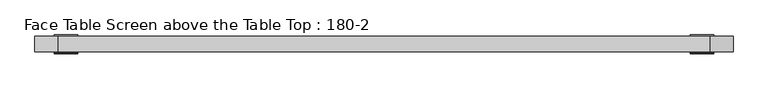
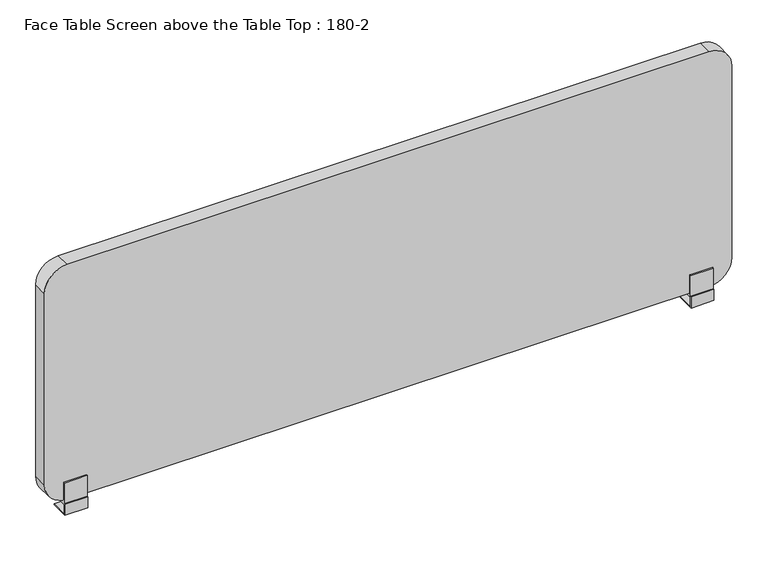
"""IFC4 building model written with IfcOpenShell, lengths in millimetres: furniture geometry, Face Table Screen above the Table Top : 180-2."""

from ifc_helpers import new_model, si_unit, point, frame, frame_2d, origin, place, context, project, spatial, polyline, circle_curve, trimmed, segment, composite_curve, outline, extrude, source, transform, mapped, element, save
from ifc_brep_helpers import plane_surface, cylinder_surface, advanced_brep


def face_table_screen_above_the_table_top_180_2_dd3ff419(model_context):
    return source(origin(), model_context, "Body", "SolidModel", [
        advanced_brep(
        [(-825.0, 0.0, -39.4406633), (-815.0, 0.0, -39.4406633), (-815.0, 0.0, -28.0), (-825.0, 0.0, -28.0), (-850.0, 23.0, -25.0), (-850.0, -23.0, -25.0), (-790.0, -23.0, -25.0), (-790.0, 23.0, -25.0), (-850.0, -23.0, 0.0), (-850.0, 23.0, -28.0), (-850.0, -26.0, -28.0), (-850.0, -26.0, 3.0), (-850.0, -23.0, 3.0), (-850.0, -23.0, 60.0), (-850.0, -20.0, 60.0), (-850.0, -20.0, 10.0), (-850.0, 20.0, 10.0), (-850.0, 20.0, 60.0), (-850.0, 23.0, 60.0), (-850.0, 23.0, 0.0), (-790.0, -23.0, 0.0), (-790.0, 23.0, 0.0), (-790.0, 23.0, 60.0), (-790.0, 20.0, 60.0), (-790.0, 20.0, 10.0), (-790.0, -20.0, 10.0), (-790.0, -20.0, 60.0), (-790.0, -23.0, 60.0), (-790.0, -23.0, 3.0), (-790.0, -26.0, 3.0), (-790.0, -26.0, -28.0), (-790.0, 23.0, -28.0)],
        [
            (0, 1, circle_curve(frame((-820.0, 0.0, -39.4406633), z_axis=(0.0, 0.0, -1.0), x_axis=(1.0, 0.0, 0.0)), 5.0)),
            (1, 0, circle_curve(frame((-820.0, 0.0, -39.4406633), z_axis=(0.0, 0.0, -1.0), x_axis=(1.0, 0.0, 0.0)), 5.0)),
            (1, 2),
            (2, 3, circle_curve(frame((-820.0, 0.0, -28.0), z_axis=(0.0, 0.0, -1.0), x_axis=(1.0, 0.0, 0.0)), 5.0)),
            (3, 0),
            (3, 2, circle_curve(frame((-820.0, 0.0, -28.0), z_axis=(0.0, 0.0, -1.0), x_axis=(1.0, 0.0, 0.0)), 5.0)),
            (4, 5),
            (5, 6),
            (6, 7),
            (7, 4),
            (8, 5),
            (4, 9),
            (9, 10),
            (10, 11),
            (11, 12),
            (12, 13),
            (13, 14),
            (14, 15),
            (15, 16),
            (16, 17),
            (17, 18),
            (18, 19),
            (19, 8),
            (20, 21),
            (21, 22),
            (22, 23),
            (23, 24),
            (24, 25),
            (25, 26),
            (26, 27),
            (27, 28),
            (28, 29),
            (29, 30),
            (30, 31),
            (31, 7),
            (6, 20),
            (19, 21),
            (20, 8),
            (18, 22),
            (17, 23),
            (16, 24),
            (15, 25),
            (14, 26),
            (13, 27),
            (12, 28),
            (11, 29),
            (10, 30),
            (9, 31),
        ],
        [
            plane_surface(frame((-815.0, 0.0, -39.4406633), z_axis=(0.0, 0.0, -1.0), x_axis=(0.0, -1.0, 0.0))),
            cylinder_surface(frame((-820.0, 0.0, -39.4406633), z_axis=(0.0, 0.0, 1.0), x_axis=(1.0, 0.0, 0.0)), 5.0),
            plane_surface(frame((-815.0, 0.0, -25.0), z_axis=(0.0, 0.0, 1.0), x_axis=(0.0, 1.0, 0.0))),
            plane_surface(frame((-850.0, 23.0, 0.0), z_axis=(-1.0, 0.0, 0.0), x_axis=(0.0, -1.0, 0.0))),
            plane_surface(frame((-790.0, 23.0, 0.0), z_axis=(1.0, 0.0, 0.0), x_axis=(0.0, 1.0, 0.0))),
            plane_surface(frame((-790.0, -23.0, 0.0), z_axis=(0.0, 0.0, -1.0), x_axis=(-1.0, 0.0, 0.0))),
            plane_surface(frame((-790.0, 23.0, 0.0), z_axis=(0.0, 1.0, 0.0), x_axis=(-1.0, 0.0, 0.0))),
            plane_surface(frame((-790.0, 23.0, 60.0), z_axis=(0.0, 0.0, 1.0), x_axis=(-1.0, 0.0, 0.0))),
            plane_surface(frame((-790.0, 20.0, 60.0), z_axis=(0.0, -1.0, 0.0), x_axis=(-1.0, 0.0, 0.0))),
            plane_surface(frame((-790.0, 20.0, 10.0), z_axis=(0.0, 0.0, 1.0), x_axis=(-1.0, 0.0, 0.0))),
            plane_surface(frame((-790.0, -20.0, 10.0), z_axis=(0.0, 1.0, 0.0), x_axis=(-1.0, 0.0, 0.0))),
            plane_surface(frame((-790.0, -20.0, 60.0), z_axis=(0.0, 0.0, 1.0), x_axis=(-1.0, 0.0, 0.0))),
            plane_surface(frame((-790.0, -23.0, 60.0), z_axis=(0.0, -1.0, 0.0), x_axis=(-1.0, 0.0, 0.0))),
            plane_surface(frame((-790.0, -23.0, 3.0), z_axis=(0.0, 0.0, 1.0), x_axis=(-1.0, 0.0, 0.0))),
            plane_surface(frame((-790.0, -26.0, 3.0), z_axis=(0.0, -1.0, 0.0), x_axis=(-1.0, 0.0, 0.0))),
            plane_surface(frame((-790.0, -26.0, -28.0), z_axis=(0.0, 0.0, -1.0), x_axis=(-1.0, 0.0, 0.0))),
            plane_surface(frame((-790.0, 23.0, -28.0), z_axis=(0.0, 1.0, 0.0), x_axis=(-1.0, 0.0, 0.0))),
            plane_surface(frame((-790.0, -23.0, -25.0), z_axis=(0.0, 1.0, 0.0), x_axis=(-1.0, 0.0, 0.0))),
        ],
        [
            (0, [[1, 2]]),
            (1, [[-2, 3, 4, 5]]),
            (1, [[-1, -5, 6, -3]]),
            (2, [[7, 8, 9, 10]]),
            (3, [[11, -7, 12, 13, 14, 15, 16, 17, 18, 19, 20, 21, 22, 23]]),
            (4, [[24, 25, 26, 27, 28, 29, 30, 31, 32, 33, 34, 35, -9, 36]]),
            (5, [[-23, 37, -24, 38]]),
            (6, [[-22, 39, -25, -37]]),
            (7, [[-21, 40, -26, -39]]),
            (8, [[-20, 41, -27, -40]]),
            (9, [[-19, 42, -28, -41]]),
            (10, [[-18, 43, -29, -42]]),
            (11, [[-17, 44, -30, -43]]),
            (12, [[-16, 45, -31, -44]]),
            (13, [[-15, 46, -32, -45]]),
            (14, [[-14, 47, -33, -46]]),
            (15, [[-13, 48, -34, -47], [-4, -6]]),
            (16, [[-12, -10, -35, -48]]),
            (17, [[-11, -38, -36, -8]]),
        ],
    ),
        advanced_brep(
        [(815.0, 0.0, -39.4406633), (825.0, 0.0, -39.4406633), (825.0, 0.0, -28.0), (815.0, 0.0, -28.0), (790.0, 23.0, -25.0), (790.0, -23.0, -25.0), (850.0, -23.0, -25.0), (850.0, 23.0, -25.0), (790.0, -23.0, 0.0), (790.0, 23.0, -28.0), (790.0, -26.0, -28.0), (790.0, -26.0, 3.0), (790.0, -23.0, 3.0), (790.0, -23.0, 60.0), (790.0, -20.0, 60.0), (790.0, -20.0, 10.0), (790.0, 20.0, 10.0), (790.0, 20.0, 60.0), (790.0, 23.0, 60.0), (790.0, 23.0, 0.0), (850.0, -23.0, 0.0), (850.0, 23.0, 0.0), (850.0, 23.0, 60.0), (850.0, 20.0, 60.0), (850.0, 20.0, 10.0), (850.0, -20.0, 10.0), (850.0, -20.0, 60.0), (850.0, -23.0, 60.0), (850.0, -23.0, 3.0), (850.0, -26.0, 3.0), (850.0, -26.0, -28.0), (850.0, 23.0, -28.0)],
        [
            (0, 1, circle_curve(frame((820.0, 0.0, -39.4406633), z_axis=(0.0, 0.0, -1.0), x_axis=(1.0, 0.0, 0.0)), 5.0)),
            (1, 0, circle_curve(frame((820.0, 0.0, -39.4406633), z_axis=(0.0, 0.0, -1.0), x_axis=(1.0, 0.0, 0.0)), 5.0)),
            (1, 2),
            (2, 3, circle_curve(frame((820.0, 0.0, -28.0), z_axis=(0.0, 0.0, -1.0), x_axis=(1.0, 0.0, 0.0)), 5.0)),
            (3, 0),
            (3, 2, circle_curve(frame((820.0, 0.0, -28.0), z_axis=(0.0, 0.0, -1.0), x_axis=(1.0, 0.0, 0.0)), 5.0)),
            (4, 5),
            (5, 6),
            (6, 7),
            (7, 4),
            (8, 5),
            (4, 9),
            (9, 10),
            (10, 11),
            (11, 12),
            (12, 13),
            (13, 14),
            (14, 15),
            (15, 16),
            (16, 17),
            (17, 18),
            (18, 19),
            (19, 8),
            (20, 21),
            (21, 22),
            (22, 23),
            (23, 24),
            (24, 25),
            (25, 26),
            (26, 27),
            (27, 28),
            (28, 29),
            (29, 30),
            (30, 31),
            (31, 7),
            (6, 20),
            (19, 21),
            (20, 8),
            (18, 22),
            (17, 23),
            (16, 24),
            (15, 25),
            (14, 26),
            (13, 27),
            (12, 28),
            (11, 29),
            (10, 30),
            (9, 31),
        ],
        [
            plane_surface(frame((825.0, 0.0, -39.4406633), z_axis=(0.0, 0.0, -1.0), x_axis=(0.0, -1.0, 0.0))),
            cylinder_surface(frame((820.0, 0.0, -39.4406633), z_axis=(0.0, 0.0, 1.0), x_axis=(1.0, 0.0, 0.0)), 5.0),
            plane_surface(frame((825.0, 0.0, -25.0), z_axis=(0.0, 0.0, 1.0), x_axis=(0.0, 1.0, 0.0))),
            plane_surface(frame((790.0, 23.0, 0.0), z_axis=(-1.0, 0.0, 0.0), x_axis=(0.0, -1.0, 0.0))),
            plane_surface(frame((850.0, 23.0, 0.0), z_axis=(1.0, 0.0, 0.0), x_axis=(0.0, 1.0, 0.0))),
            plane_surface(frame((850.0, -23.0, 0.0), z_axis=(0.0, 0.0, -1.0), x_axis=(-1.0, 0.0, 0.0))),
            plane_surface(frame((850.0, 23.0, 0.0), z_axis=(0.0, 1.0, 0.0), x_axis=(-1.0, 0.0, 0.0))),
            plane_surface(frame((850.0, 23.0, 60.0), z_axis=(0.0, 0.0, 1.0), x_axis=(-1.0, 0.0, 0.0))),
            plane_surface(frame((850.0, 20.0, 60.0), z_axis=(0.0, -1.0, 0.0), x_axis=(-1.0, 0.0, 0.0))),
            plane_surface(frame((850.0, 20.0, 10.0), z_axis=(0.0, 0.0, 1.0), x_axis=(-1.0, 0.0, 0.0))),
            plane_surface(frame((850.0, -20.0, 10.0), z_axis=(0.0, 1.0, 0.0), x_axis=(-1.0, 0.0, 0.0))),
            plane_surface(frame((850.0, -20.0, 60.0), z_axis=(0.0, 0.0, 1.0), x_axis=(-1.0, 0.0, 0.0))),
            plane_surface(frame((850.0, -23.0, 60.0), z_axis=(0.0, -1.0, 0.0), x_axis=(-1.0, 0.0, 0.0))),
            plane_surface(frame((850.0, -23.0, 3.0), z_axis=(0.0, 0.0, 1.0), x_axis=(-1.0, 0.0, 0.0))),
            plane_surface(frame((850.0, -26.0, 3.0), z_axis=(0.0, -1.0, 0.0), x_axis=(-1.0, 0.0, 0.0))),
            plane_surface(frame((850.0, -26.0, -28.0), z_axis=(0.0, 0.0, -1.0), x_axis=(-1.0, 0.0, 0.0))),
            plane_surface(frame((850.0, 23.0, -28.0), z_axis=(0.0, 1.0, 0.0), x_axis=(-1.0, 0.0, 0.0))),
            plane_surface(frame((850.0, -23.0, -25.0), z_axis=(0.0, 1.0, 0.0), x_axis=(-1.0, 0.0, 0.0))),
        ],
        [
            (0, [[1, 2]]),
            (1, [[-2, 3, 4, 5]]),
            (1, [[-1, -5, 6, -3]]),
            (2, [[7, 8, 9, 10]]),
            (3, [[11, -7, 12, 13, 14, 15, 16, 17, 18, 19, 20, 21, 22, 23]]),
            (4, [[24, 25, 26, 27, 28, 29, 30, 31, 32, 33, 34, 35, -9, 36]]),
            (5, [[-23, 37, -24, 38]]),
            (6, [[-22, 39, -25, -37]]),
            (7, [[-21, 40, -26, -39]]),
            (8, [[-20, 41, -27, -40]]),
            (9, [[-19, 42, -28, -41]]),
            (10, [[-18, 43, -29, -42]]),
            (11, [[-17, 44, -30, -43]]),
            (12, [[-16, 45, -31, -44]]),
            (13, [[-15, 46, -32, -45]]),
            (14, [[-14, 47, -33, -46]]),
            (15, [[-13, 48, -34, -47], [-4, -6]]),
            (16, [[-12, -10, -35, -48]]),
            (17, [[-11, -38, -36, -8]]),
        ],
    ),
        extrude(outline(composite_curve([segment(polyline([(660.0, 840.0), (660.0, -840.0)]), True, "CONTINUOUS"), segment(trimmed(circle_curve(frame_2d((600.0, -840.0)), 60.0), [point((660.0, -840.0))], [point((600.0, -900.0))], False, "CARTESIAN"), True, "CONTINUOUS"), segment(polyline([(600.0, -900.0), (70.0, -900.0)]), True, "CONTINUOUS"), segment(trimmed(circle_curve(frame_2d((70.0, -840.0)), 60.0), [point((70.0, -900.0))], [point((10.0, -840.0))], False, "CARTESIAN"), True, "CONTINUOUS"), segment(polyline([(10.0, -840.0), (10.0, 840.0)]), True, "CONTINUOUS"), segment(trimmed(circle_curve(frame_2d((70.0, 840.0)), 60.0), [point((10.0, 840.0))], [point((70.0, 900.0))], False, "CARTESIAN"), True, "CONTINUOUS"), segment(polyline([(70.0, 900.0), (600.0, 900.0)]), True, "CONTINUOUS"), segment(trimmed(circle_curve(frame_2d((600.0, 840.0)), 60.0), [point((600.0, 900.0))], [point((660.0, 840.0))], False, "CARTESIAN"), True, "CONTINUOUS")], self_intersect=False)), frame((0.0, -20.0, 0.0), z_axis=(0.0, 1.0, 0.0), x_axis=(0.0, 0.0, 1.0)), (0.0, 0.0, 1.0), 40.0),
    ])


if __name__ == "__main__":
    model = new_model("IFC4")
    model_context = context("Model", 3, world=origin())
    ifc_project = project(units=[si_unit("LENGTHUNIT", "METRE", prefix="MILLI")], contexts=[model_context])
    site = spatial("IfcSite", under=ifc_project)
    building = spatial("IfcBuilding", under=site)
    placement = place(None, origin())
    face_table_screen_above_the_table_top_180_2_shape = face_table_screen_above_the_table_top_180_2_dd3ff419(model_context)
    element("IfcFurniture", 1, ObjectType="Face Table Screen above the Table Top : 180-2", at=placement, inside=building, context=model_context, shape_type="MappedRepresentation", body=[
        mapped(face_table_screen_above_the_table_top_180_2_shape, transform((0.0, 0.0, 0.0), x_axis=(1.0, 0.0, 0.0), y_axis=(0.0, 1.0, 0.0), z_axis=(0.0, 0.0, 1.0))),
    ])
    save(model, "model.ifc")
